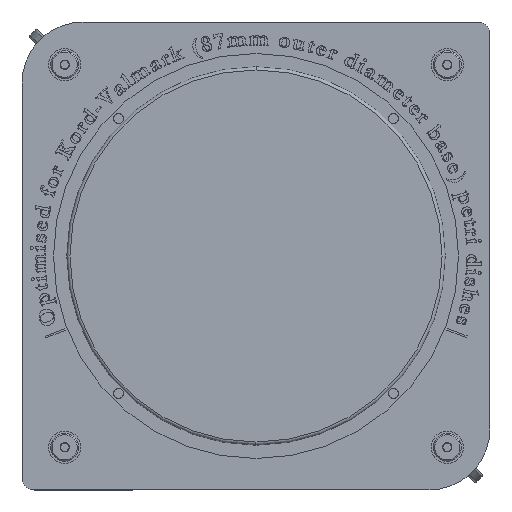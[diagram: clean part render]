
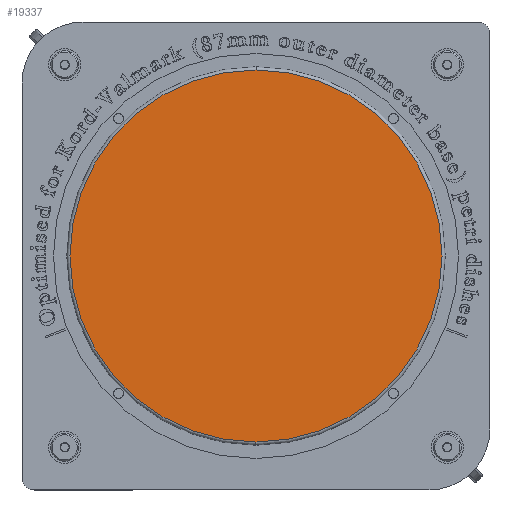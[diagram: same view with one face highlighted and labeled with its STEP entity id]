
A CAD part, front view. The second image highlights one B-rep face of the part: STEP entity #19337.
In plain terms, the highlighted planar face has unit normal (0, -1, 0).
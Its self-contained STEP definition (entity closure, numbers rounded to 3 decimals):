
#19337 = ADVANCED_FACE ( 'NONE', ( #120557 ), #58527, .T. ) ;
#32878 = CARTESIAN_POINT ( 'NONE',  ( 0., 0., -45.706 ) ) ;
#35951 = CARTESIAN_POINT ( 'NONE',  ( 0., 0., 45.706 ) ) ;
#45782 = DIRECTION ( 'NONE',  ( 0., 0., -1. ) ) ;
#56019 = EDGE_CURVE ( 'NONE', #165993, #117654, #158952, .T. ) ;
#58527 = PLANE ( 'NONE',  #123055 ) ;
#61535 = DIRECTION ( 'NONE',  ( 0., 0., -1. ) ) ;
#70393 = CARTESIAN_POINT ( 'NONE',  ( 0., 0., 0. ) ) ;
#72582 = CARTESIAN_POINT ( 'NONE',  ( 0., 0., 0. ) ) ;
#82387 = ORIENTED_EDGE ( 'NONE', *, *, #160214, .T. ) ;
#85338 = DIRECTION ( 'NONE',  ( 0., -1., 0. ) ) ;
#85647 = AXIS2_PLACEMENT_3D ( 'NONE', #72582, #85338, #61535 ) ;
#94315 = CARTESIAN_POINT ( 'NONE',  ( 0., 0., 0. ) ) ;
#99936 = ORIENTED_EDGE ( 'NONE', *, *, #56019, .T. ) ;
#103173 = AXIS2_PLACEMENT_3D ( 'NONE', #94315, #159772, #161458 ) ;
#117654 = VERTEX_POINT ( 'NONE', #35951 ) ;
#120557 = FACE_OUTER_BOUND ( 'NONE', #167647, .T. ) ;
#123055 = AXIS2_PLACEMENT_3D ( 'NONE', #70393, #150280, #45782 ) ;
#130280 = CIRCLE ( 'NONE', #103173, 45.706 ) ;
#150280 = DIRECTION ( 'NONE',  ( 0., -1., 0. ) ) ;
#158952 = CIRCLE ( 'NONE', #85647, 45.706 ) ;
#159772 = DIRECTION ( 'NONE',  ( 0., -1., 0. ) ) ;
#160214 = EDGE_CURVE ( 'NONE', #117654, #165993, #130280, .T. ) ;
#161458 = DIRECTION ( 'NONE',  ( 0., 0., -1. ) ) ;
#165993 = VERTEX_POINT ( 'NONE', #32878 ) ;
#167647 = EDGE_LOOP ( 'NONE', ( #99936, #82387 ) ) ;
